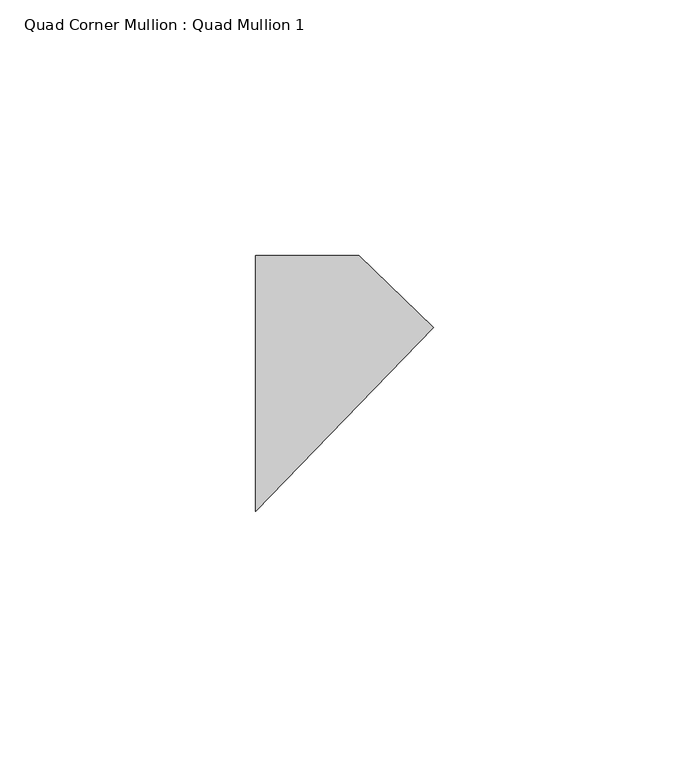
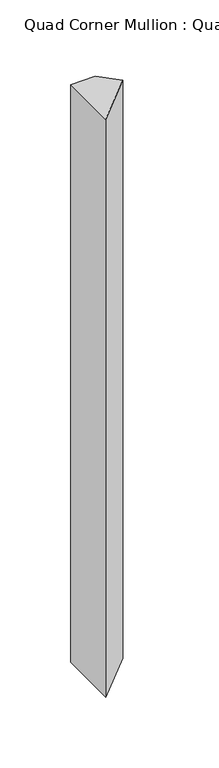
"""IFC4 building model written with IfcOpenShell, lengths in millimetres: member geometry, Quad Corner Mullion : Quad Mullion 1."""

from ifc_helpers import new_model, si_unit, frame, origin, place, context, project, spatial, polyline, outline, extrude, source, transform, mapped, element, save


def quad_corner_mullion_quad_mullion_1_dc37dd8c(model_context):
    return source(origin(), model_context, "Body", "SweptSolid", [
        extrude(outline(polyline([(24.6322629, 10.96699), (-10.1006556, -25.0), (-10.1006556, 25.0), (10.1006556, 25.0), (24.6322629, 10.96699)])), frame((0.0, 0.0, -500.0), z_axis=(0.0, 0.0, 1.0), x_axis=(1.0, 0.0, 0.0)), (0.0, 0.0, 1.0), 500.0),
    ])


if __name__ == "__main__":
    model = new_model("IFC4")
    model_context = context("Model", 3, world=origin())
    ifc_project = project(units=[si_unit("LENGTHUNIT", "METRE", prefix="MILLI")], contexts=[model_context])
    site = spatial("IfcSite", under=ifc_project)
    building = spatial("IfcBuilding", under=site)
    placement = place(None, origin())
    quad_corner_mullion_quad_mullion_1_shape = quad_corner_mullion_quad_mullion_1_dc37dd8c(model_context)
    element("IfcMember", 1, ObjectType="Quad Corner Mullion : Quad Mullion 1", at=placement, inside=building, context=model_context, shape_type="MappedRepresentation", body=[
        mapped(quad_corner_mullion_quad_mullion_1_shape, transform((0.0, 0.0, 0.0), x_axis=(1.0, 0.0, 0.0), y_axis=(0.0, 1.0, 0.0), z_axis=(0.0, 0.0, 1.0))),
    ])
    save(model, "model.ifc")
